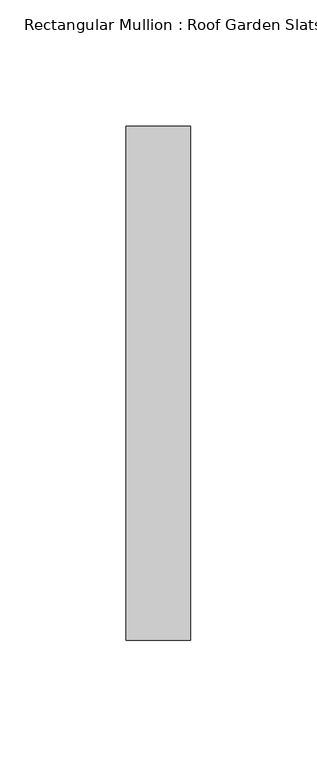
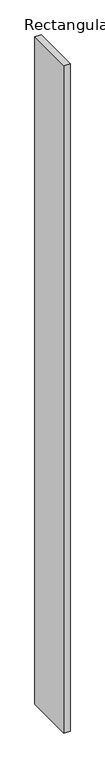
"""IFC4 building model written with IfcOpenShell, lengths in millimetres: member geometry, Rectangular Mullion : Roof Garden Slats."""

from ifc_helpers import new_model, si_unit, frame, origin, place, context, project, spatial, polyline, outline, extrude, source, transform, mapped, element, save


def rectangular_mullion_roof_garden_slats_dc90f862(model_context):
    return source(origin(), model_context, "Body", "SweptSolid", [
        extrude(outline(polyline([(0.0, 139.7), (0.0, -63.5), (-25.4, -63.5), (-25.4, 139.7), (0.0, 139.7)])), frame((0.0, 0.0, -2866.3582097), z_axis=(0.0, 0.0, 1.0), x_axis=(1.0, 0.0, 0.0)), (0.0, 0.0, 1.0), 2866.3582097),
    ])


if __name__ == "__main__":
    model = new_model("IFC4")
    model_context = context("Model", 3, world=origin())
    ifc_project = project(units=[si_unit("LENGTHUNIT", "METRE", prefix="MILLI")], contexts=[model_context])
    site = spatial("IfcSite", under=ifc_project)
    building = spatial("IfcBuilding", under=site)
    placement = place(None, origin())
    rectangular_mullion_roof_garden_slats_shape = rectangular_mullion_roof_garden_slats_dc90f862(model_context)
    element("IfcMember", 1, ObjectType="Rectangular Mullion : Roof Garden Slats", at=placement, inside=building, context=model_context, shape_type="MappedRepresentation", body=[
        mapped(rectangular_mullion_roof_garden_slats_shape, transform((0.0, 0.0, 0.0), x_axis=(1.0, 0.0, 0.0), y_axis=(0.0, 1.0, 0.0), z_axis=(0.0, 0.0, 1.0))),
    ])
    save(model, "model.ifc")
